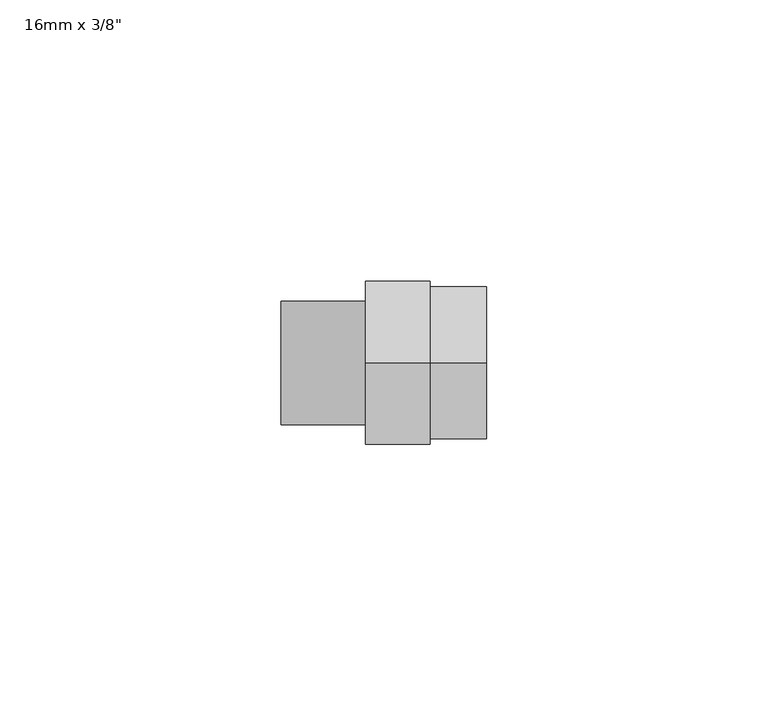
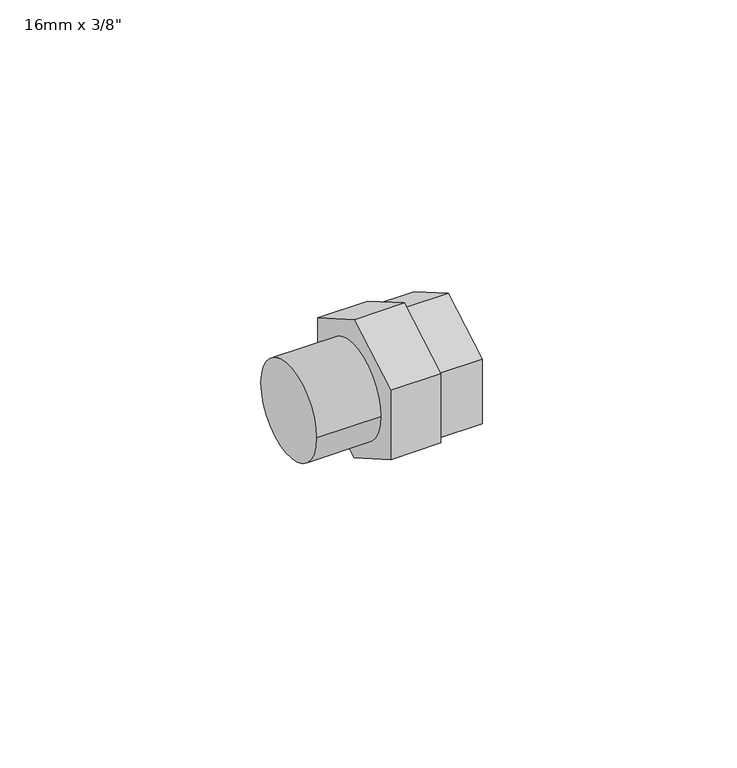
"""IFC4 building model written with IfcOpenShell, lengths in millimetres: pipe fitting geometry."""

from ifc_helpers import new_model, si_unit, point, frame, origin, origin_2d, place, context, project, spatial, circle_curve, trimmed, segment, composite_curve, outline, extrude, faceted_brep, source, transform, mapped, element, save


def pipe_fitting_10325621(model_context):
    return source(origin(), model_context, "Body", "SolidModel", [
        faceted_brep([(29.0, 0.0, 15.5884573), (29.0, -13.5, 7.7942286), (29.0, -13.5, -7.7942286), (29.0, 0.0, -15.5884573), (29.0, 13.5, -7.7942286), (29.0, 13.5, 7.7942286), (19.0, 13.5, 7.7942286), (19.0, 0.0, 15.5884573), (19.0, 13.5, -7.7942286), (19.0, 0.0, -15.5884573), (19.0, -13.5, -7.7942286), (19.0, -13.5, 7.7942286), (19.0, 0.0, 16.7431578), (19.0, -14.5, 8.3715789), (19.0, -14.5, -8.3715789), (19.0, 0.0, -16.7431578), (19.0, 14.5, -8.3715789), (19.0, 14.5, 8.3715789), (7.5, 0.0, 16.7431578), (7.5, 14.5, 8.3715789), (7.5, 14.5, -8.3715789), (7.5, 0.0, -16.7431578), (7.5, -14.5, -8.3715789), (7.5, -14.5, 8.3715789)], [[[0, 1, 2, 3, 4, 5]], [[0, 5, 6, 7]], [[5, 4, 8, 6]], [[4, 3, 9, 8]], [[3, 2, 10, 9]], [[2, 1, 11, 10]], [[1, 0, 7, 11]], [[12, 13, 14, 15, 16, 17], [7, 6, 8, 9, 10, 11]], [[18, 19, 20, 21, 22, 23]], [[19, 18, 12, 17]], [[20, 19, 17, 16]], [[21, 20, 16, 15]], [[22, 21, 15, 14]], [[23, 22, 14, 13]], [[18, 23, 13, 12]]]),
        extrude(outline(composite_curve([segment(trimmed(circle_curve(origin_2d(), 11.0), [point((-11.0, 0.0))], [point((11.0, 0.0))], False, "CARTESIAN"), True, "CONTINUOUS"), segment(trimmed(circle_curve(origin_2d(), 11.0), [point((11.0, 0.0))], [point((-11.0, 0.0))], False, "CARTESIAN"), True, "CONTINUOUS")], self_intersect=False)), frame((-7.5, 0.0, 0.0), z_axis=(1.0, 0.0, 0.0), x_axis=(0.0, 1.0, 0.0)), (0.0, 0.0, 1.0), 15.0),
    ])


if __name__ == "__main__":
    model = new_model("IFC4")
    model_context = context("Model", 3, world=origin())
    ifc_project = project(units=[si_unit("LENGTHUNIT", "METRE", prefix="MILLI")], contexts=[model_context])
    site = spatial("IfcSite", under=ifc_project)
    building = spatial("IfcBuilding", under=site)
    placement = place(None, origin())
    pipe_fitting_shape = pipe_fitting_10325621(model_context)
    element("IfcPipeFitting", 1, ObjectType="PipeFitting_HTA_CPVC_3PieceUnions_(CPVC-Brass) : 16mm x 3/8\"", at=placement, inside=building, context=model_context, shape_type="MappedRepresentation", body=[
        mapped(pipe_fitting_shape, transform((0.0, 0.0, 0.0), x_axis=(1.0, 0.0, 0.0), y_axis=(0.0, 1.0, 0.0), z_axis=(0.0, 0.0, 1.0))),
    ])
    save(model, "model.ifc")
